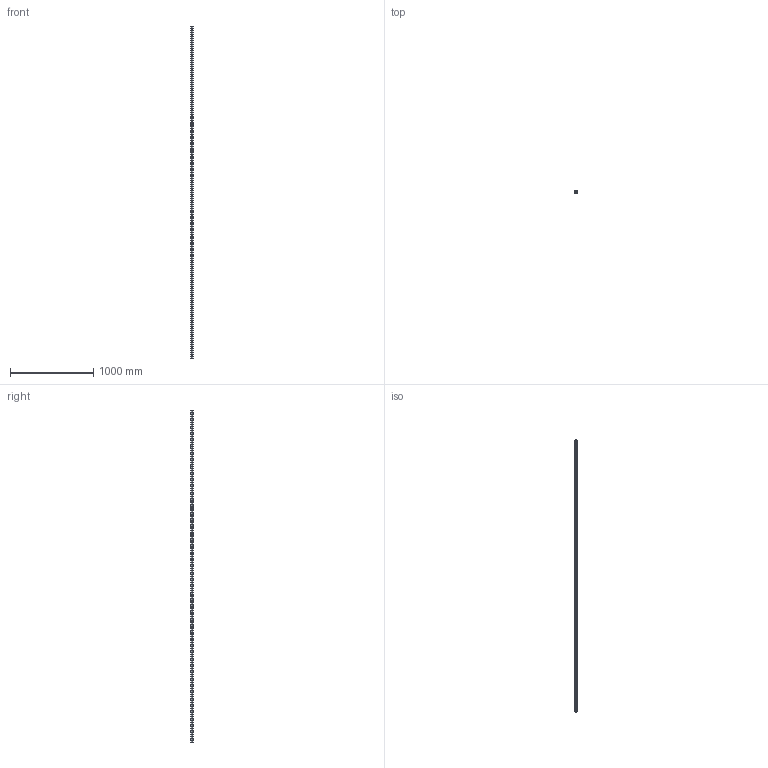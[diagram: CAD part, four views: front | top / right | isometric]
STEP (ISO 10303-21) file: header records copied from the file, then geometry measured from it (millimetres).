
FILE_DESCRIPTION (( 'STEP AP203' ), '1' );
FILE_NAME ('SGR30R4000L.STEP', '2025-06-26T09:01:05', ( 'Owner' ), ( 'Organization' ), 'SwSTEP 2.0', 'SolidWorks 2020', '' );
FILE_SCHEMA (( 'CONFIG_CONTROL_DESIGN' ));
Length unit declared in the file: millimetre
Products named in the file (1): SGR30R4000L
Bounding box: 28 x 26 x 4000 mm (x, y, z)
Volume: 2324424.4 mm3; surface area: 480956.6 mm2
Topology: 1 solids, 1 shells, 300 faces, 744 edges, 496 vertices
Faces by surface type: cylinder 220, plane 80
Entity records: 9425 total; most frequent: DIRECTION 1786, CARTESIAN_POINT 1541, ORIENTED_EDGE 1488, EDGE_CURVE 744, AXIS2_PLACEMENT_3D 741, VERTEX_POINT 496, EDGE_LOOP 450, CIRCLE 440
